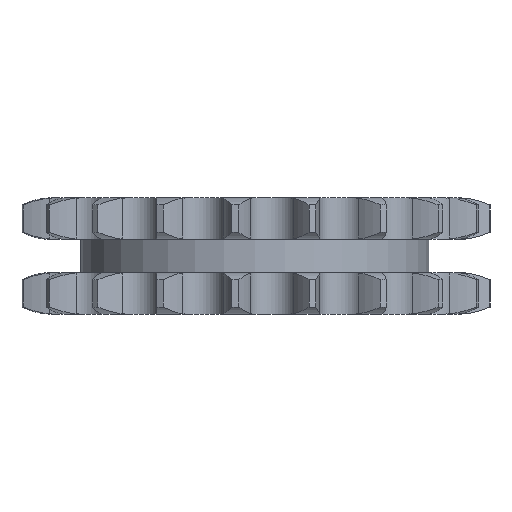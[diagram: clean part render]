
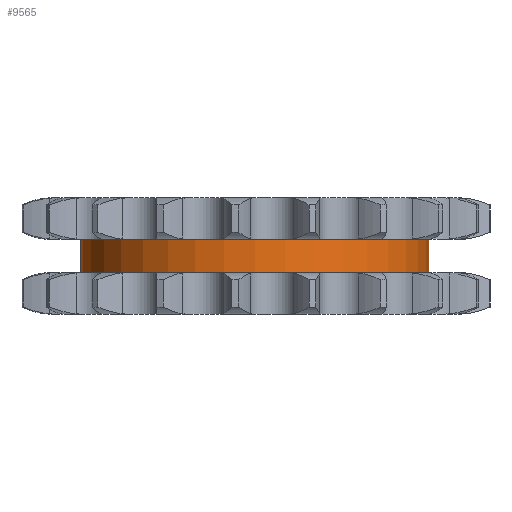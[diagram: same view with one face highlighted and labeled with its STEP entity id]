
A CAD part, left-side view. The second image highlights one B-rep face of the part: STEP entity #9565.
In plain terms, the highlighted cylindrical face has radius 38.224 mm (diameter 76.449 mm), a partial arc.
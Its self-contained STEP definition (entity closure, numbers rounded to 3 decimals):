
#2228=DIRECTION('',(0.,0.,-1.));
#2229=VECTOR('',#2228,7.3);
#2230=CARTESIAN_POINT('',(0.,38.225,3.65));
#2231=LINE('',#2230,#2229);
#2235=CARTESIAN_POINT('',(0.,0.,3.65));
#2236=DIRECTION('',(0.,0.,1.));
#2237=DIRECTION('',(0.,1.,0.));
#2238=AXIS2_PLACEMENT_3D('',#2235,#2236,#2237);
#2243=DIRECTION('',(0.,0.,-1.));
#2244=VECTOR('',#2243,7.3);
#2245=CARTESIAN_POINT('',(0.,-38.225,3.65));
#2246=LINE('',#2245,#2244);
#2250=CARTESIAN_POINT('',(0.,0.,-3.65));
#2251=DIRECTION('',(0.,0.,1.));
#2252=DIRECTION('',(0.,1.,0.));
#2253=AXIS2_PLACEMENT_3D('',#2250,#2251,#2252);
#6651=CARTESIAN_POINT('',(0.,38.225,3.65));
#6652=CARTESIAN_POINT('',(0.,38.225,-3.65));
#6653=VERTEX_POINT('',#6651);
#6654=VERTEX_POINT('',#6652);
#6655=CARTESIAN_POINT('',(0.,-38.225,3.65));
#6656=CARTESIAN_POINT('',(0.,-38.225,-3.65));
#6657=VERTEX_POINT('',#6655);
#6658=VERTEX_POINT('',#6656);
#9553=CARTESIAN_POINT('',(0.,0.,4.015));
#9554=DIRECTION('',(0.,0.,-1.));
#9555=DIRECTION('',(0.,-1.,0.));
#9556=AXIS2_PLACEMENT_3D('',#9553,#9554,#9555);
#9557=CYLINDRICAL_SURFACE('',#9556,38.225);
#9558=ORIENTED_EDGE('',*,*,#9543,.F.);
#9559=ORIENTED_EDGE('',*,*,#9533,.T.);
#9560=ORIENTED_EDGE('',*,*,#9547,.T.);
#9562=ORIENTED_EDGE('',*,*,#9561,.F.);
#9563=EDGE_LOOP('',(#9558,#9559,#9560,#9562));
#9564=FACE_OUTER_BOUND('',#9563,.F.);
#9565=ADVANCED_FACE('',(#9564),#9557,.T.);
#2239=CIRCLE('',#2238,38.225);
#2254=CIRCLE('',#2253,38.225);
#9533=EDGE_CURVE('',#6653,#6657,#2239,.T.);
#9543=EDGE_CURVE('',#6653,#6654,#2231,.T.);
#9547=EDGE_CURVE('',#6657,#6658,#2246,.T.);
#9561=EDGE_CURVE('',#6654,#6658,#2254,.T.);
